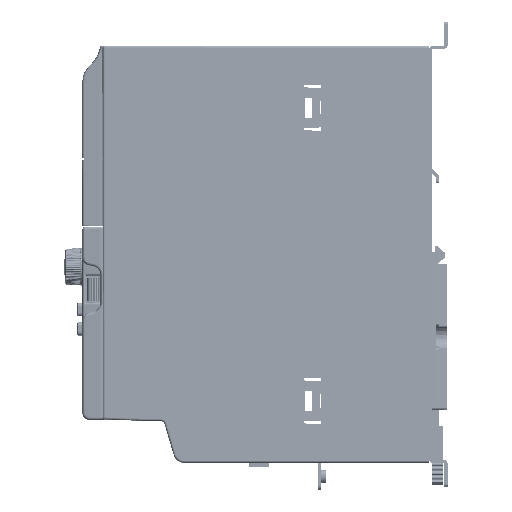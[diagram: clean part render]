
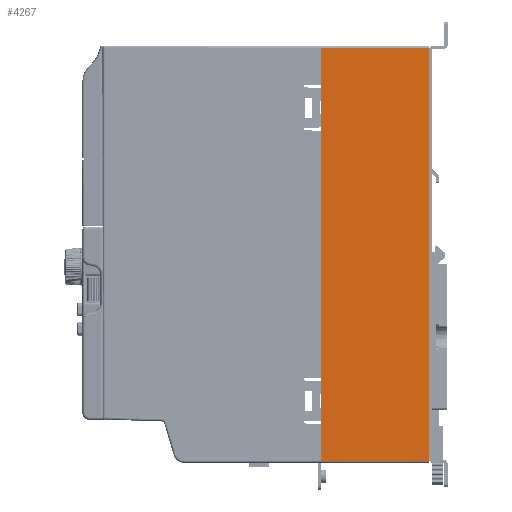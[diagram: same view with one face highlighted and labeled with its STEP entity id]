
A CAD part, left-side view. The second image highlights one B-rep face of the part: STEP entity #4267.
In plain terms, the highlighted planar face has unit normal (-1, 0, 0).
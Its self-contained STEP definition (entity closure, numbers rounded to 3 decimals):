
#961=DIRECTION('',(0.,0.,-1.));
#962=VECTOR('',#961,183.);
#963=CARTESIAN_POINT('',(-47.5,-47.5,91.5));
#964=LINE('',#963,#962);
#1796=DIRECTION('',(0.,1.,0.));
#1797=VECTOR('',#1796,47.5);
#1798=CARTESIAN_POINT('',(-47.5,-47.5,91.5));
#1799=LINE('',#1798,#1797);
#1803=DIRECTION('',(0.,-1.,0.));
#1804=VECTOR('',#1803,47.5);
#1805=CARTESIAN_POINT('',(-47.5,0.,-91.5));
#1806=LINE('',#1805,#1804);
#1810=DIRECTION('',(0.,0.,1.));
#1811=VECTOR('',#1810,183.);
#1812=CARTESIAN_POINT('',(-47.5,0.,-91.5));
#1813=LINE('',#1812,#1811);
#2779=CARTESIAN_POINT('',(-47.5,0.,91.5));
#2781=VERTEX_POINT('',#2779);
#2785=CARTESIAN_POINT('',(-47.5,-47.5,91.5));
#2786=VERTEX_POINT('',#2785);
#2787=CARTESIAN_POINT('',(-47.5,-47.5,-91.5));
#2789=VERTEX_POINT('',#2787);
#2793=CARTESIAN_POINT('',(-47.5,0.,-91.5));
#2794=VERTEX_POINT('',#2793);
#4255=CARTESIAN_POINT('',(-47.5,0.,-92.5));
#4256=DIRECTION('',(-1.,0.,0.));
#4257=DIRECTION('',(0.,-1.,0.));
#4258=AXIS2_PLACEMENT_3D('',#4255,#4256,#4257);
#4259=PLANE('',#4258);
#4260=ORIENTED_EDGE('',*,*,#4250,.F.);
#4261=ORIENTED_EDGE('',*,*,#3651,.T.);
#4263=ORIENTED_EDGE('',*,*,#4262,.F.);
#4264=ORIENTED_EDGE('',*,*,#4174,.T.);
#4265=EDGE_LOOP('',(#4260,#4261,#4263,#4264));
#4266=FACE_OUTER_BOUND('',#4265,.F.);
#4267=ADVANCED_FACE('',(#4266),#4259,.T.);
#3651=EDGE_CURVE('',#2786,#2789,#964,.T.);
#4174=EDGE_CURVE('',#2794,#2781,#1813,.T.);
#4250=EDGE_CURVE('',#2786,#2781,#1799,.T.);
#4262=EDGE_CURVE('',#2794,#2789,#1806,.T.);
